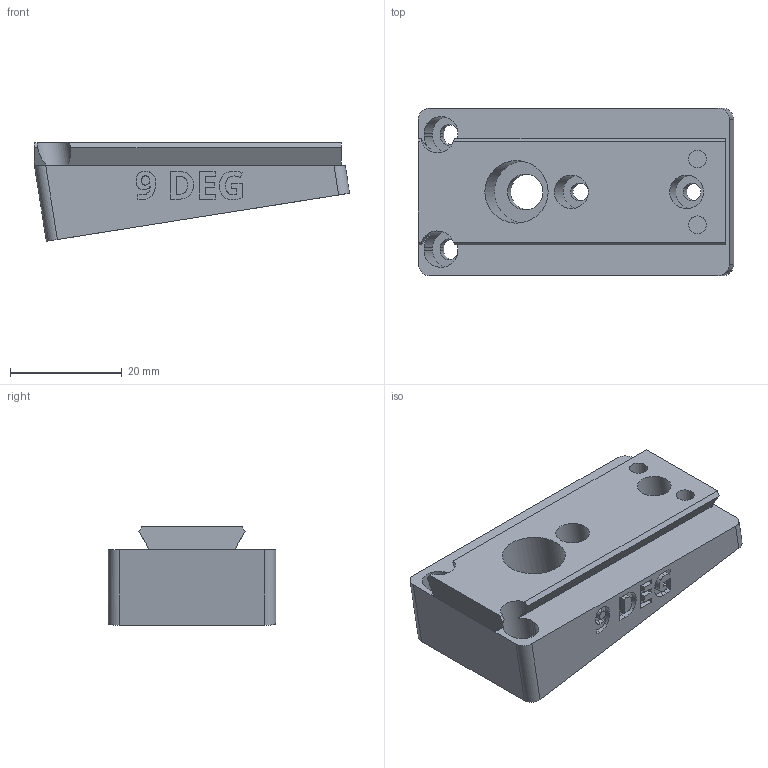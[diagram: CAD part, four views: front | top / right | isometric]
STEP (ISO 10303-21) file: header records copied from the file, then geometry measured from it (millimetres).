
FILE_DESCRIPTION(/* description */ ('STEP AP242 Edition 2','CAx-IF Rec.Pracs.---Representation and Presentation of Product Manufacturing Information (PMI)---4.0---2014-10-13','CAx-IF Rec.Pracs.---3D Tessellated Geometry---0.4---2014-09-14','2;1','CAx-IF Rec.Pracs.---User Defined Attributes---1.5---2016-08-15'),/* implementation_level */ '2;1');
FILE_NAME(/* name */ 'Camera Wedges - CAMERA MOUNTING WEDGE, POS, 9 DEG',/* time_stamp */ '2026-07-08T20:41:08Z',/* author */ (''),/* organization */ (''),/* preprocessor_version */ 'ST-DEVELOPER v20',/* originating_system */ 'ONSHAPE BY PTC INC, 1.217',/* authorisation */ ' ');
FILE_SCHEMA (('AP242_MANAGED_MODEL_BASED_3D_ENGINEERING_MIM_LF { 1 0 10303 442 3 1 4 }'));
Length unit declared in the file: metre
Products named in the file (1): CAMERA MOUNTING WEDGE, POS, 9 DEG
Bounding box: 56.47 x 30 x 17.64 mm (x, y, z)
Volume: 15978.6 mm3; surface area: 7199.1 mm2
Topology: 1 solids, 1 shells, 227 faces, 622 edges, 415 vertices
Faces by surface type: plane 115, bspline 70, cylinder 42
Full cylindrical faces by diameter (mm): 3.2 x4, 6 x2, 6.4 x1, 11.2 x1
Entity records: 7395 total; most frequent: CARTESIAN_POINT 2021, ORIENTED_EDGE 1222, DIRECTION 883, EDGE_CURVE 611, VERTEX_POINT 412, LINE 375, VECTOR 375, EDGE_LOOP 263
